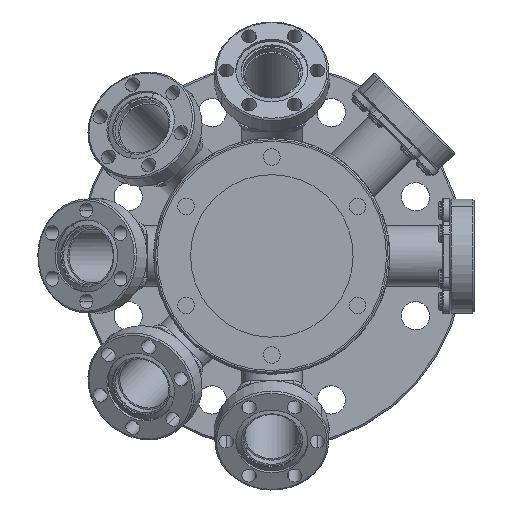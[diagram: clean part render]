
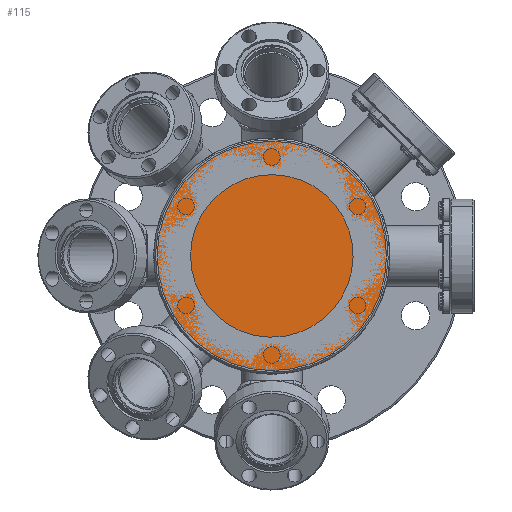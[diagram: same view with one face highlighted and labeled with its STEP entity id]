
A CAD part, top view. The second image highlights one B-rep face of the part: STEP entity #115.
In plain terms, the highlighted planar face has unit normal (0, 0, 1) as drawn and (-1, 0, 0) by its records, which use the part's own axes.
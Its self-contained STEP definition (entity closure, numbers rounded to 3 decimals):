
#56=AXIS2_PLACEMENT_3D('Circle Axis2P3D',#54,#55,$) ;
#90=AXIS2_PLACEMENT_3D('Circle Axis2P3D',#88,#89,$) ;
#109=AXIS2_PLACEMENT_3D('Plane Axis2P3D',#106,#107,#108) ;
#49=CARTESIAN_POINT('Vertex',(0.,34.,0.)) ;
#54=CARTESIAN_POINT('Axis2P3D Location',(0.,0.,0.)) ;
#58=CARTESIAN_POINT('Vertex',(0.,-34.,0.)) ;
#88=CARTESIAN_POINT('Axis2P3D Location',(0.,0.,0.)) ;
#106=CARTESIAN_POINT('Axis2P3D Location',(0.,0.,0.)) ;
#55=DIRECTION('Axis2P3D Direction',(1.,0.,0.)) ;
#89=DIRECTION('Axis2P3D Direction',(1.,0.,0.)) ;
#107=DIRECTION('Axis2P3D Direction',(1.,0.,0.)) ;
#108=DIRECTION('Axis2P3D XDirection',(0.,1.,0.)) ;
#112=ORIENTED_EDGE('',*,*,#92,.F.) ;
#113=ORIENTED_EDGE('',*,*,#60,.F.) ;
#115=ADVANCED_FACE('Hauptk\X2\00F6\X0\rper',(#114),#110,.F.) ;
#57=CIRCLE('generated circle',#56,34.) ;
#91=CIRCLE('generated circle',#90,34.) ;
#60=EDGE_CURVE('',#50,#59,#57,.T.) ;
#92=EDGE_CURVE('',#59,#50,#91,.T.) ;
#111=EDGE_LOOP('',(#112,#113)) ;
#114=FACE_OUTER_BOUND('',#111,.T.) ;
#110=PLANE('',#109) ;
#50=VERTEX_POINT('',#49) ;
#59=VERTEX_POINT('',#58) ;
